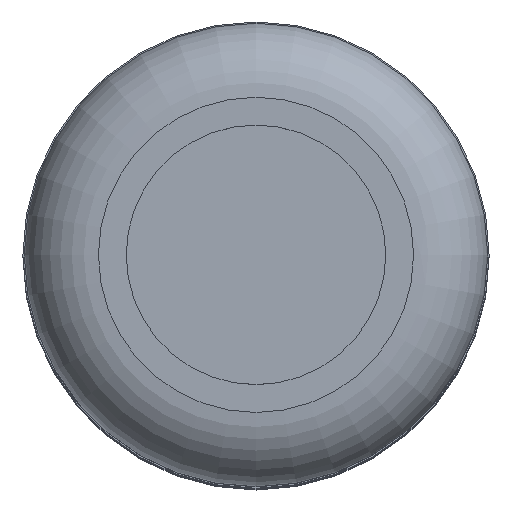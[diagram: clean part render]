
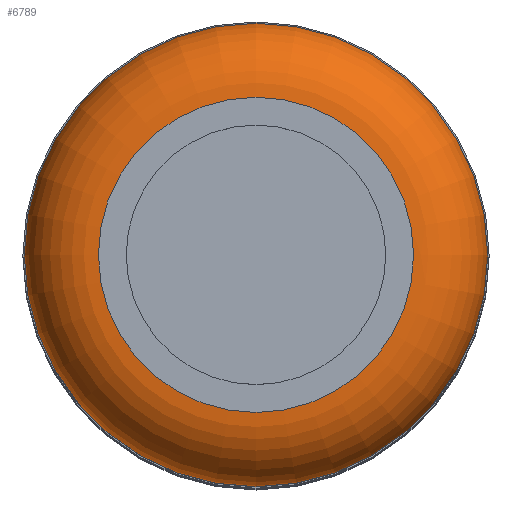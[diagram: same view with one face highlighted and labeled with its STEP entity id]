
A CAD part, top view. The second image highlights one B-rep face of the part: STEP entity #6789.
In plain terms, the highlighted toroidal (fillet/blend) face has major radius 17 mm and minor radius 8 mm.
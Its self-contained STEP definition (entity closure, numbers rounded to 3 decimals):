
#34=TOROIDAL_SURFACE('',#24294,17.,8.);
#6789=ADVANCED_FACE('',(#8457,#8458),#34,.T.);
#8457=FACE_BOUND('',#8620,.T.);
#8458=FACE_BOUND('',#8621,.T.);
#8620=EDGE_LOOP('',(#10012));
#8621=EDGE_LOOP('',(#10013));
#10012=ORIENTED_EDGE('',*,*,#19530,.F.);
#10013=ORIENTED_EDGE('',*,*,#19531,.F.);
#17114=VERTEX_POINT('',#36874);
#17115=VERTEX_POINT('',#36876);
#19530=EDGE_CURVE('',#17114,#17114,#23078,.T.);
#19531=EDGE_CURVE('',#17115,#17115,#23079,.T.);
#23078=CIRCLE('',#24292,25.);
#23079=CIRCLE('',#24293,17.);
#24292=AXIS2_PLACEMENT_3D('',#36873,#26748,#26749);
#24293=AXIS2_PLACEMENT_3D('',#36875,#26750,#26751);
#24294=AXIS2_PLACEMENT_3D('',#36877,#26752,#26753);
#26748=DIRECTION('',(0.,0.,-1.));
#26749=DIRECTION('',(1.,0.,0.));
#26750=DIRECTION('',(0.,0.,1.));
#26751=DIRECTION('',(1.,0.,0.));
#26752=DIRECTION('',(0.,0.,1.));
#26753=DIRECTION('',(1.,0.,0.));
#36873=CARTESIAN_POINT('',(0.,200.,152.5));
#36874=CARTESIAN_POINT('',(25.,200.,152.5));
#36875=CARTESIAN_POINT('',(0.,200.,160.5));
#36876=CARTESIAN_POINT('',(17.,200.,160.5));
#36877=CARTESIAN_POINT('',(0.,200.,152.5));
